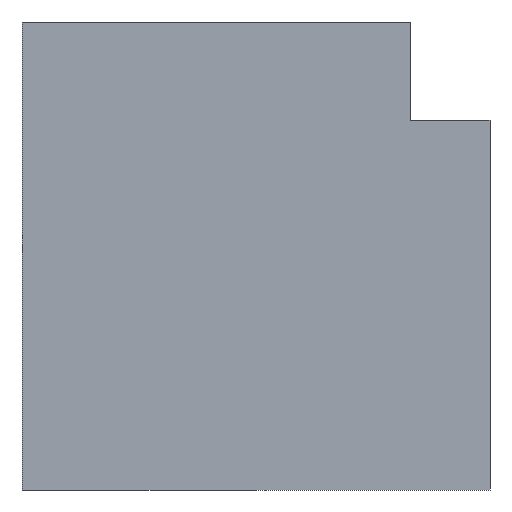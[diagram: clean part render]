
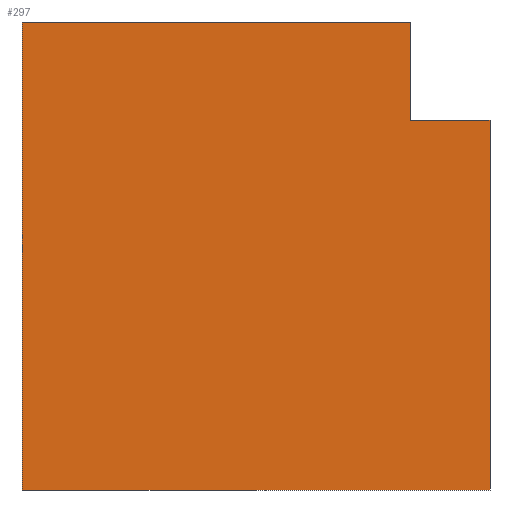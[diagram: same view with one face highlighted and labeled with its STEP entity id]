
A CAD part, left-side view. The second image highlights one B-rep face of the part: STEP entity #297.
In plain terms, the highlighted planar face has unit normal (-1, 0, 0).
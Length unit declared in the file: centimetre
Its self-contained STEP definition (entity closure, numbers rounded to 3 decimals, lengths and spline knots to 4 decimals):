
#3 = CARTESIAN_POINT ( 'NONE',  ( 0., 0., 790.3544 ) ) ;
#16 = VECTOR ( 'NONE', #240, 100. ) ;
#22 = VECTOR ( 'NONE', #210, 100. ) ;
#57 = PLANE ( 'NONE',  #128 ) ;
#60 = FACE_OUTER_BOUND ( 'NONE', #319, .T. ) ;
#69 = CARTESIAN_POINT ( 'NONE',  ( 0., 1000., 1000. ) ) ;
#82 = DIRECTION ( 'NONE',  ( 1., 0., 0. ) ) ;
#84 = CARTESIAN_POINT ( 'NONE',  ( 0., 169.3881, 1000. ) ) ;
#103 = EDGE_CURVE ( 'NONE', #339, #274, #352, .T. ) ;
#111 = DIRECTION ( 'NONE',  ( 0., 0., -1. ) ) ;
#127 = LINE ( 'NONE', #238, #199 ) ;
#128 = AXIS2_PLACEMENT_3D ( 'NONE', #313, #82, #111 ) ;
#129 = CARTESIAN_POINT ( 'NONE',  ( 0., 1000., 0. ) ) ;
#132 = VECTOR ( 'NONE', #224, 100. ) ;
#138 = CARTESIAN_POINT ( 'NONE',  ( 0., 1000., 0. ) ) ;
#142 = CARTESIAN_POINT ( 'NONE',  ( 0., 169.3881, 790.3544 ) ) ;
#156 = DIRECTION ( 'NONE',  ( 0., -1., 0. ) ) ;
#158 = EDGE_CURVE ( 'NONE', #196, #303, #235, .T. ) ;
#187 = CARTESIAN_POINT ( 'NONE',  ( 0., 169.3881, 790.3544 ) ) ;
#196 = VERTEX_POINT ( 'NONE', #69 ) ;
#199 = VECTOR ( 'NONE', #156, 100. ) ;
#202 = CARTESIAN_POINT ( 'NONE',  ( 0., 1000., 1000. ) ) ;
#203 = CARTESIAN_POINT ( 'NONE',  ( 0., 0., 790.3544 ) ) ;
#208 = ORIENTED_EDGE ( 'NONE', *, *, #103, .F. ) ;
#210 = DIRECTION ( 'NONE',  ( 0., 0., -1. ) ) ;
#224 = DIRECTION ( 'NONE',  ( 0., 1., 0. ) ) ;
#231 = DIRECTION ( 'NONE',  ( 0., 0., -1. ) ) ;
#235 = LINE ( 'NONE', #202, #22 ) ;
#238 = CARTESIAN_POINT ( 'NONE',  ( 0., 1000., 1000. ) ) ;
#240 = DIRECTION ( 'NONE',  ( 0., -1., 0. ) ) ;
#248 = VERTEX_POINT ( 'NONE', #187 ) ;
#250 = ORIENTED_EDGE ( 'NONE', *, *, #286, .T. ) ;
#269 = LINE ( 'NONE', #129, #16 ) ;
#270 = ORIENTED_EDGE ( 'NONE', *, *, #282, .F. ) ;
#271 = CARTESIAN_POINT ( 'NONE',  ( 0., 0., 0. ) ) ;
#272 = ORIENTED_EDGE ( 'NONE', *, *, #300, .T. ) ;
#274 = VERTEX_POINT ( 'NONE', #271 ) ;
#282 = EDGE_CURVE ( 'NONE', #196, #338, #127, .T. ) ;
#286 = EDGE_CURVE ( 'NONE', #303, #274, #269, .T. ) ;
#297 = ADVANCED_FACE ( 'NONE', ( #60 ), #57, .F. ) ;
#300 = EDGE_CURVE ( 'NONE', #248, #338, #348, .T. ) ;
#303 = VERTEX_POINT ( 'NONE', #138 ) ;
#310 = DIRECTION ( 'NONE',  ( 0., 0., 1. ) ) ;
#313 = CARTESIAN_POINT ( 'NONE',  ( 0., 1000., 1000. ) ) ;
#319 = EDGE_LOOP ( 'NONE', ( #208, #360, #272, #270, #325, #250 ) ) ;
#325 = ORIENTED_EDGE ( 'NONE', *, *, #158, .T. ) ;
#338 = VERTEX_POINT ( 'NONE', #84 ) ;
#339 = VERTEX_POINT ( 'NONE', #203 ) ;
#341 = LINE ( 'NONE', #3, #132 ) ;
#346 = CARTESIAN_POINT ( 'NONE',  ( 0., 0., 1000. ) ) ;
#348 = LINE ( 'NONE', #142, #372 ) ;
#352 = LINE ( 'NONE', #346, #371 ) ;
#360 = ORIENTED_EDGE ( 'NONE', *, *, #362, .T. ) ;
#362 = EDGE_CURVE ( 'NONE', #339, #248, #341, .T. ) ;
#371 = VECTOR ( 'NONE', #231, 100. ) ;
#372 = VECTOR ( 'NONE', #310, 100. ) ;
